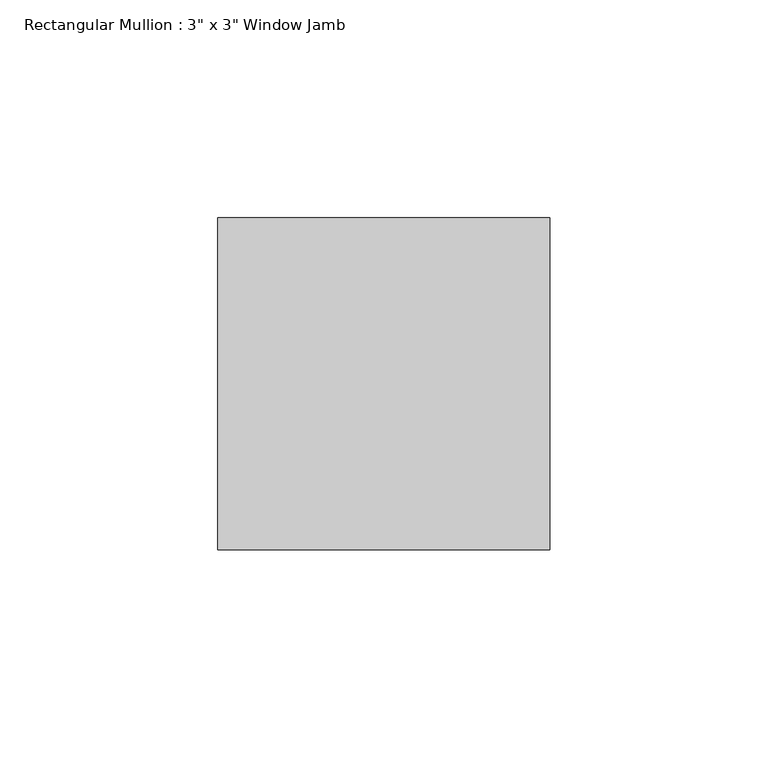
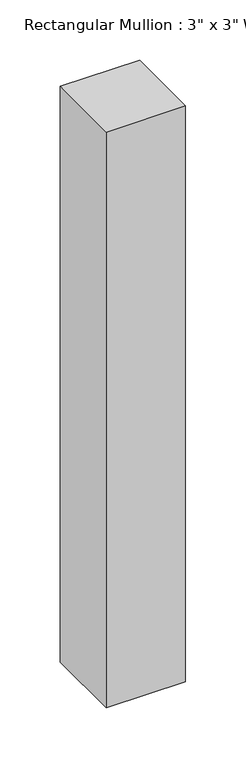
"""IFC4 building model written with IfcOpenShell, lengths in millimetres: member geometry."""

from ifc_helpers import new_model, si_unit, frame, origin, place, context, project, spatial, polyline, outline, extrude, source, transform, mapped, element, save


def member_17eb62f4(model_context):
    return source(origin(), model_context, "Body", "SweptSolid", [
        extrude(outline(polyline([(0.0, 50.8), (0.0, -25.4), (-76.2, -25.4), (-76.2, 50.8), (0.0, 50.8)])), frame((0.0, 0.0, -584.2), z_axis=(0.0, 0.0, 1.0), x_axis=(1.0, 0.0, 0.0)), (0.0, 0.0, 1.0), 584.2),
    ])


if __name__ == "__main__":
    model = new_model("IFC4")
    model_context = context("Model", 3, world=origin())
    ifc_project = project(units=[si_unit("LENGTHUNIT", "METRE", prefix="MILLI")], contexts=[model_context])
    site = spatial("IfcSite", under=ifc_project)
    building = spatial("IfcBuilding", under=site)
    placement = place(None, origin())
    member_shape = member_17eb62f4(model_context)
    element("IfcMember", 1, ObjectType="Rectangular Mullion : 3\" x 3\" Window Jamb", at=placement, inside=building, context=model_context, shape_type="MappedRepresentation", body=[
        mapped(member_shape, transform((0.0, 0.0, 0.0), x_axis=(1.0, 0.0, 0.0), y_axis=(0.0, 1.0, 0.0), z_axis=(0.0, 0.0, 1.0))),
    ])
    save(model, "model.ifc")
